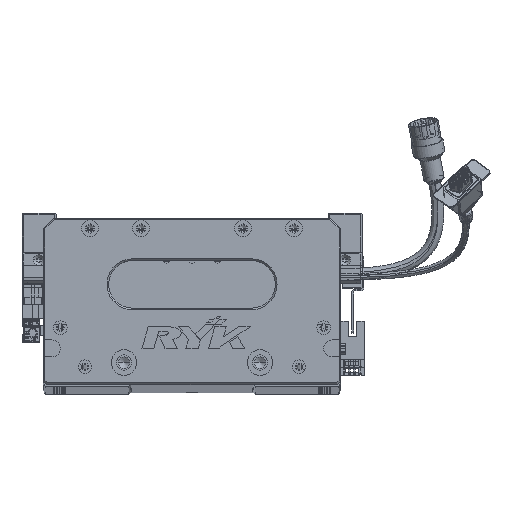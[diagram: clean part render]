
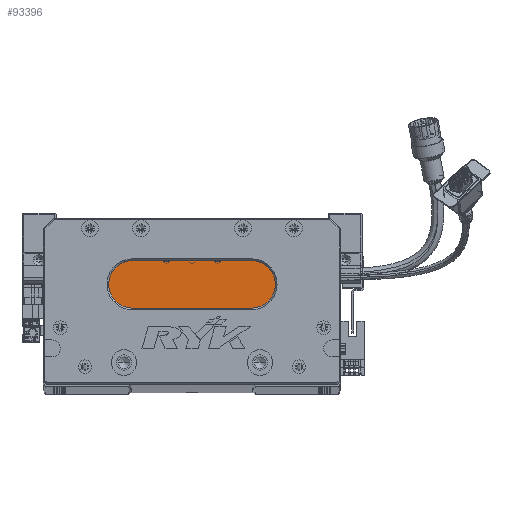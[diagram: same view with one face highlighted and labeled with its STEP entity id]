
A CAD part, top view. The second image highlights one B-rep face of the part: STEP entity #93396.
In plain terms, the highlighted planar face has unit normal (0, 0, 1) as drawn and (0, 0, -1) by its records, which use the part's own axes.
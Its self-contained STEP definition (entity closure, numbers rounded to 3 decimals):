
#1110 = CIRCLE ( 'NONE', #104079, 14. ) ;
#1373 = EDGE_CURVE ( 'NONE', #24871, #85767, #84417, .T. ) ;
#2859 = ORIENTED_EDGE ( 'NONE', *, *, #1373, .T. ) ;
#8645 = CARTESIAN_POINT ( 'NONE',  ( 122.5, 59., 18. ) ) ;
#12930 = CARTESIAN_POINT ( 'NONE',  ( 52.5, 73., 18. ) ) ;
#14658 = FACE_OUTER_BOUND ( 'NONE', #27916, .T. ) ;
#15452 = DIRECTION ( 'NONE',  ( -1., 0., 0. ) ) ;
#19834 = DIRECTION ( 'NONE',  ( 0., 0., -1. ) ) ;
#24871 = VERTEX_POINT ( 'NONE', #12930 ) ;
#27628 = CARTESIAN_POINT ( 'NONE',  ( 52.5, 59., 18. ) ) ;
#27916 = EDGE_LOOP ( 'NONE', ( #62448, #76408, #112700, #76098, #2859 ) ) ;
#28527 = DIRECTION ( 'NONE',  ( 0., 0., -1. ) ) ;
#29393 = DIRECTION ( 'NONE',  ( -1., 0., 0. ) ) ;
#30742 = EDGE_CURVE ( 'NONE', #85767, #54256, #99684, .T. ) ;
#33071 = DIRECTION ( 'NONE',  ( -1., 0., 0. ) ) ;
#33223 = AXIS2_PLACEMENT_3D ( 'NONE', #8645, #58218, #57341 ) ;
#34720 = EDGE_CURVE ( 'NONE', #46416, #24871, #1110, .T. ) ;
#46416 = VERTEX_POINT ( 'NONE', #90578 ) ;
#47773 = PLANE ( 'NONE',  #33223 ) ;
#51781 = VECTOR ( 'NONE', #127673, 1000. ) ;
#54256 = VERTEX_POINT ( 'NONE', #95339 ) ;
#57341 = DIRECTION ( 'NONE',  ( -1., 0., 0. ) ) ;
#57740 = CARTESIAN_POINT ( 'NONE',  ( 122.5, 73., 18. ) ) ;
#58218 = DIRECTION ( 'NONE',  ( 0., 0., -1. ) ) ;
#60801 = VECTOR ( 'NONE', #33071, 1000. ) ;
#62310 = LINE ( 'NONE', #81244, #60801 ) ;
#62448 = ORIENTED_EDGE ( 'NONE', *, *, #30742, .T. ) ;
#70185 = EDGE_CURVE ( 'NONE', #112008, #46416, #95842, .T. ) ;
#73523 = AXIS2_PLACEMENT_3D ( 'NONE', #27628, #28527, #97131 ) ;
#76098 = ORIENTED_EDGE ( 'NONE', *, *, #34720, .T. ) ;
#76408 = ORIENTED_EDGE ( 'NONE', *, *, #89097, .T. ) ;
#81244 = CARTESIAN_POINT ( 'NONE',  ( 122.5, 45., 18. ) ) ;
#84417 = LINE ( 'NONE', #57740, #51781 ) ;
#85767 = VERTEX_POINT ( 'NONE', #106829 ) ;
#85824 = CARTESIAN_POINT ( 'NONE',  ( 122.5, 59., 18. ) ) ;
#89097 = EDGE_CURVE ( 'NONE', #54256, #112008, #62310, .T. ) ;
#90578 = CARTESIAN_POINT ( 'NONE',  ( 38.5, 59., 18. ) ) ;
#93396 = ADVANCED_FACE ( 'NONE', ( #14658 ), #47773, .T. ) ;
#95339 = CARTESIAN_POINT ( 'NONE',  ( 122.5, 45., 18. ) ) ;
#95842 = CIRCLE ( 'NONE', #73523, 14. ) ;
#97131 = DIRECTION ( 'NONE',  ( -1., 0., 0. ) ) ;
#99684 = CIRCLE ( 'NONE', #112178, 14. ) ;
#104079 = AXIS2_PLACEMENT_3D ( 'NONE', #128848, #19834, #29393 ) ;
#106829 = CARTESIAN_POINT ( 'NONE',  ( 122.5, 73., 18. ) ) ;
#112008 = VERTEX_POINT ( 'NONE', #115239 ) ;
#112178 = AXIS2_PLACEMENT_3D ( 'NONE', #85824, #115327, #15452 ) ;
#112700 = ORIENTED_EDGE ( 'NONE', *, *, #70185, .T. ) ;
#115239 = CARTESIAN_POINT ( 'NONE',  ( 52.5, 45., 18. ) ) ;
#115327 = DIRECTION ( 'NONE',  ( 0., 0., -1. ) ) ;
#127673 = DIRECTION ( 'NONE',  ( 1., 0., 0. ) ) ;
#128848 = CARTESIAN_POINT ( 'NONE',  ( 52.5, 59., 18. ) ) ;
